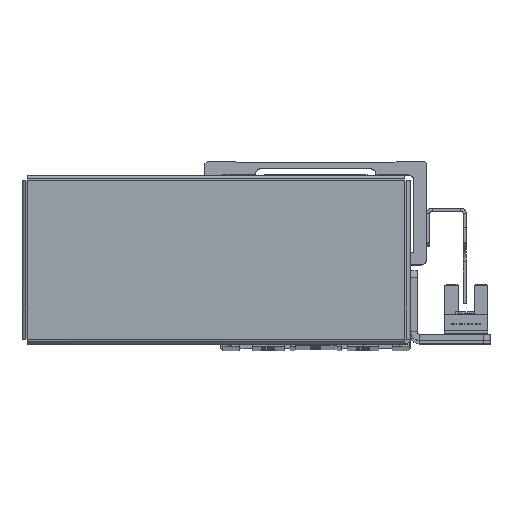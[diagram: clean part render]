
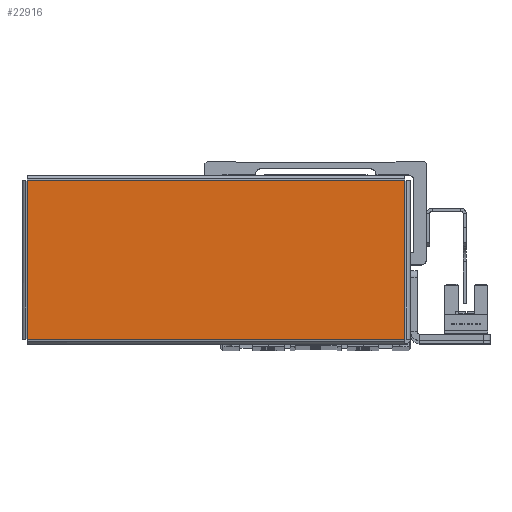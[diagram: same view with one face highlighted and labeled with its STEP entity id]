
A CAD part, top view. The second image highlights one B-rep face of the part: STEP entity #22916.
In plain terms, the highlighted planar face has unit normal (0, 0, 1) as drawn and (0, 0, -1) by its records, which use the part's own axes.
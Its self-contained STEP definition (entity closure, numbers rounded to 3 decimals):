
#3087 = FACE_OUTER_BOUND ( 'NONE', #21610, .T. ) ;
#4492 = DIRECTION ( 'NONE',  ( 0., 0., 1. ) ) ;
#4493 = DIRECTION ( 'NONE',  ( 1., 0., 0. ) ) ;
#4539 = PLANE ( 'NONE',  #8693 ) ;
#4541 = CARTESIAN_POINT ( 'NONE',  ( 0., 0., -1. ) ) ;
#8262 = CARTESIAN_POINT ( 'NONE',  ( -59.513, -25.013, -1. ) ) ;
#8320 = CARTESIAN_POINT ( 'NONE',  ( 59.513, 25.013, -1. ) ) ;
#8347 = CARTESIAN_POINT ( 'NONE',  ( 59.513, -25.013, -1. ) ) ;
#8349 = CARTESIAN_POINT ( 'NONE',  ( -59.513, 25.013, -1. ) ) ;
#8693 = AXIS2_PLACEMENT_3D ( 'NONE', #4541, #4492, #4493 ) ;
#15330 = ORIENTED_EDGE ( 'NONE', *, *, #31085, .T. ) ;
#15346 = ORIENTED_EDGE ( 'NONE', *, *, #31151, .T. ) ;
#15376 = ORIENTED_EDGE ( 'NONE', *, *, #31103, .T. ) ;
#15442 = ORIENTED_EDGE ( 'NONE', *, *, #31095, .T. ) ;
#18462 = DIRECTION ( 'NONE',  ( 1., 0., 0. ) ) ;
#18472 = CARTESIAN_POINT ( 'NONE',  ( -59.543, 25.013, -1. ) ) ;
#18506 = CARTESIAN_POINT ( 'NONE',  ( -59.513, -25.043, -1. ) ) ;
#18509 = DIRECTION ( 'NONE',  ( 0., 1., 0. ) ) ;
#18532 = CARTESIAN_POINT ( 'NONE',  ( 59.543, -25.013, -1. ) ) ;
#18552 = DIRECTION ( 'NONE',  ( -1., 0., 0. ) ) ;
#18679 = CARTESIAN_POINT ( 'NONE',  ( 59.513, 25.043, -1. ) ) ;
#18681 = DIRECTION ( 'NONE',  ( 0., -1., 0. ) ) ;
#19324 = LINE ( 'NONE', #18532, #19373 ) ;
#19332 = LINE ( 'NONE', #18472, #19358 ) ;
#19341 = VECTOR ( 'NONE', #18509, 1000. ) ;
#19348 = LINE ( 'NONE', #18506, #19341 ) ;
#19358 = VECTOR ( 'NONE', #18462, 1000. ) ;
#19373 = VECTOR ( 'NONE', #18552, 1000. ) ;
#19392 = LINE ( 'NONE', #18679, #19453 ) ;
#19453 = VECTOR ( 'NONE', #18681, 1000. ) ;
#20438 = VERTEX_POINT ( 'NONE', #8262 ) ;
#20444 = VERTEX_POINT ( 'NONE', #8320 ) ;
#20457 = VERTEX_POINT ( 'NONE', #8347 ) ;
#20459 = VERTEX_POINT ( 'NONE', #8349 ) ;
#21610 = EDGE_LOOP ( 'NONE', ( #15346, #15376, #15442, #15330 ) ) ;
#22916 = ADVANCED_FACE ( 'NONE', ( #3087 ), #4539, .F. ) ;
#31085 = EDGE_CURVE ( 'NONE', #20459, #20444, #19332, .T. ) ;
#31095 = EDGE_CURVE ( 'NONE', #20438, #20459, #19348, .T. ) ;
#31103 = EDGE_CURVE ( 'NONE', #20457, #20438, #19324, .T. ) ;
#31151 = EDGE_CURVE ( 'NONE', #20444, #20457, #19392, .T. ) ;
